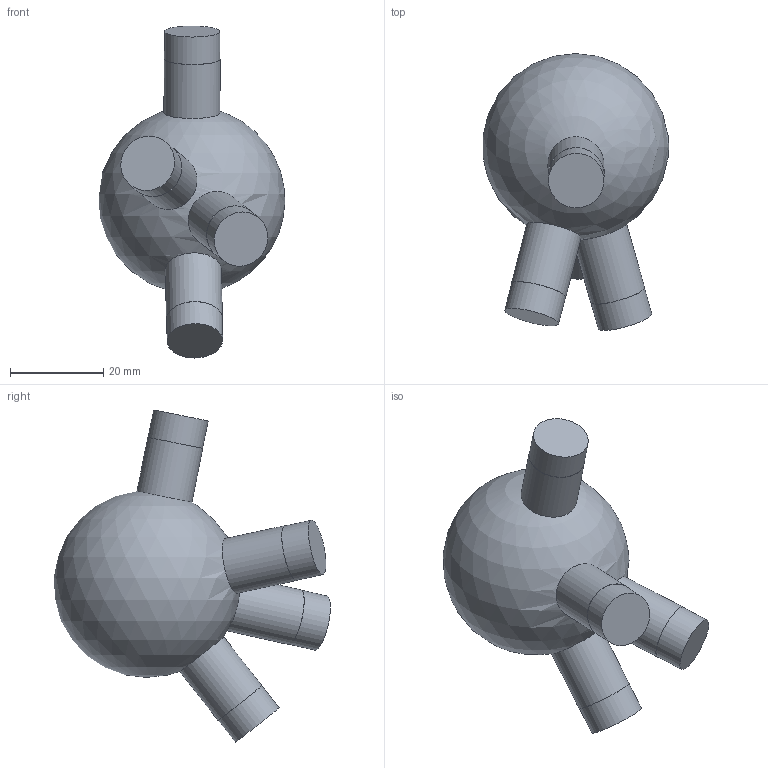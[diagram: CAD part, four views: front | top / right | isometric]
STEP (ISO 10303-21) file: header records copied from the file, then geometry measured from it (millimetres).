
FILE_DESCRIPTION(('Open CASCADE Model'),'2;1');
FILE_NAME('Open CASCADE Shape Model','2026-10-21T12:47:57',('Author'),( 'Open CASCADE'),'Open CASCADE STEP processor 7.9','Open CASCADE 7.9' ,'Unknown');
FILE_SCHEMA(('AUTOMOTIVE_DESIGN { 1 0 10303 214 1 1 1 1 }'));
Length unit declared in the file: millimetre
Products named in the file (1): Open CASCADE STEP translator 7.9 109
Bounding box: 39.8 x 59.34 x 71.17 mm (x, y, z)
Volume: 41985.9 mm3; surface area: 7918.6 mm2
Topology: 1 solids, 1 shells, 17 faces, 27 edges, 18 vertices
Faces by surface type: cylinder 8, plane 8, sphere 1
Full cylindrical faces by diameter (mm): 11.9 x4, 12 x4
Entity records: 1003 total; most frequent: CARTESIAN_POINT 385, DIRECTION 127, ORIENTED_EDGE 52, PCURVE 52, DEFINITIONAL_REPRESENTATION 52, LINE 43, VECTOR 43, AXIS2_PLACEMENT_3D 36
